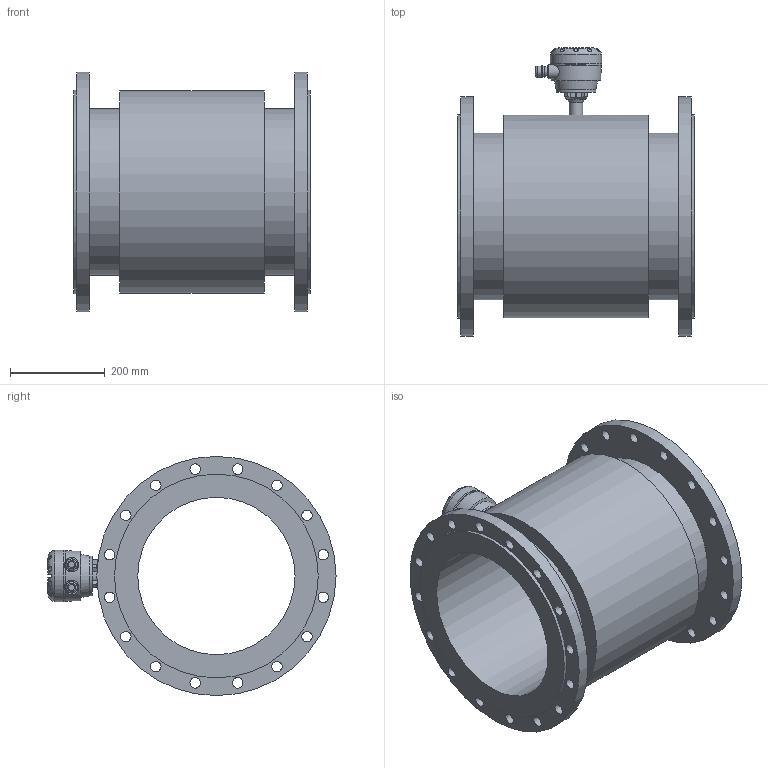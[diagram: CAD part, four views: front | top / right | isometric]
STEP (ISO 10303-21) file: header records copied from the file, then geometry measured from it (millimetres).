
FILE_DESCRIPTION (( 'STEP AP203' ), '1' );
FILE_NAME ('KROHNE_OPTIFLUX_2-4000W-WATERFLUX_3000F_DIN2632_DN350_PN10.STEP', '2011-04-26T11:23:03', ( '' ), ( '' ), 'SwSTEP 2.0', 'SolidWorks 2010', '' );
FILE_SCHEMA (( 'CONFIG_CONTROL_DESIGN' ));
Length unit declared in the file: millimetre
Products named in the file (1): KROHNE_OPTIFLUX_2-4000W-WATERFLUX_3000F_DIN2632_DN350_PN10
Bounding box: 500 x 607.99 x 505 mm (x, y, z)
Volume: 26130689.1 mm3; surface area: 1838804.8 mm2
Topology: 14 solids, 14 shells, 359 faces, 899 edges, 590 vertices
Faces by surface type: plane 158, cylinder 111, bspline 53, torus 18, sphere 13, cone 6
Full cylindrical faces by diameter (mm): 4 x4, 6.6 x8, 13 x2, 20 x2, 22 x32, 23.5 x4, 29 x1, 30 x2, 84 x2, 109 x1, 332 x1, 352 x2, 428 x1, 430 x2, 505 x2
Entity records: 14521 total; most frequent: CARTESIAN_POINT 6574, ORIENTED_EDGE 1522, DIRECTION 1509, EDGE_CURVE 761, AXIS2_PLACEMENT_3D 573, EDGE_LOOP 566, VERTEX_POINT 545, FACE_OUTER_BOUND 442
